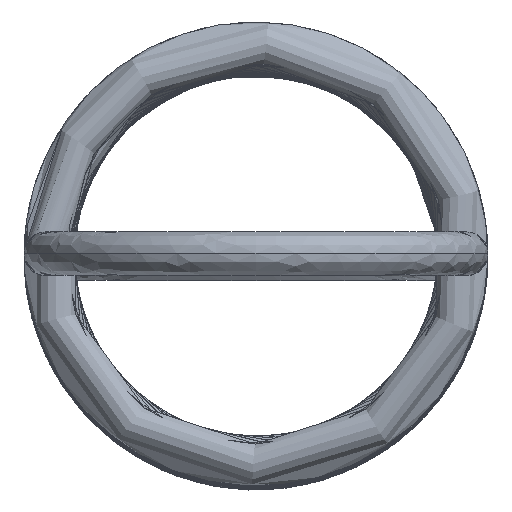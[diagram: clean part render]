
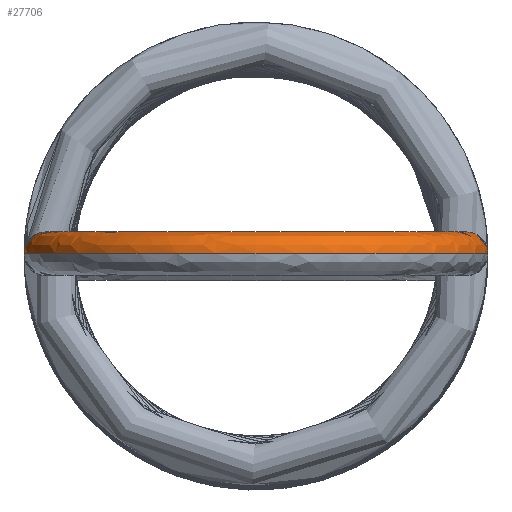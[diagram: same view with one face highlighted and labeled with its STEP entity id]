
A CAD part, top view. The second image highlights one B-rep face of the part: STEP entity #27706.
In plain terms, the highlighted free-form (B-spline) face has degree [3, 3] with [4, 4] control points.
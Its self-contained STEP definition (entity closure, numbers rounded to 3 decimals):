
#783 = ORIENTED_EDGE ( 'NONE', *, *, #19111, .T. ) ;
#2092 = DIRECTION ( 'NONE',  ( 0., 0., 1. ) ) ;
#2913 = CARTESIAN_POINT ( 'NONE',  ( 13., 3., 208.25 ) ) ;
#3102 = CARTESIAN_POINT ( 'NONE',  ( 13., 0., 208.25 ) ) ;
#6704 = CARTESIAN_POINT ( 'NONE',  ( 0., 0., 182.25 ) ) ;
#7298 = CARTESIAN_POINT ( 'NONE',  ( -13., 3., 208.25 ) ) ;
#7467 = CIRCLE ( 'NONE', #7900, 13. ) ;
#7900 = AXIS2_PLACEMENT_3D ( 'NONE', #6704, #15448, #10883 ) ;
#9924 = ORIENTED_EDGE ( 'NONE', *, *, #45008, .T. ) ;
#10094 = CARTESIAN_POINT ( 'NONE',  ( 14.5, 0., 182.25 ) ) ;
#10465 = DIRECTION ( 'NONE',  ( 1., 0., 0. ) ) ;
#10883 = DIRECTION ( 'NONE',  ( -1., 0., 0. ) ) ;
#11664 = CARTESIAN_POINT ( 'NONE',  ( 13., 3., 182.25 ) ) ;
#15448 = DIRECTION ( 'NONE',  ( 0., -1., 0. ) ) ;
#15854 = CARTESIAN_POINT ( 'NONE',  ( -16., 3., 214.25 ) ) ;
#16043 = CARTESIAN_POINT ( 'NONE',  ( -13., 0., 182.25 ) ) ;
#16233 = CARTESIAN_POINT ( 'NONE',  ( -16., 0., 182.25 ) ) ;
#19111 = EDGE_CURVE ( 'NONE', #30960, #19419, #7467, .T. ) ;
#19419 = VERTEX_POINT ( 'NONE', #31792 ) ;
#21915 = DIRECTION ( 'NONE',  ( -1., 0., 0. ) ) ;
#22576 = VERTEX_POINT ( 'NONE', #50642 ) ;
#23951 = ORIENTED_EDGE ( 'NONE', *, *, #53750, .F. ) ;
#24592 = CARTESIAN_POINT ( 'NONE',  ( 16., 3., 214.25 ) ) ;
#26083 = CARTESIAN_POINT ( 'NONE',  ( 13., 0., 182.25 ) ) ;
#27312 = EDGE_LOOP ( 'NONE', ( #9924, #783, #45882, #23951 ) ) ;
#27706 = ADVANCED_FACE ( 'NONE', ( #51000 ), #40217, .T. ) ;
#27786 = CIRCLE ( 'NONE', #48329, 16. ) ;
#29144 = CARTESIAN_POINT ( 'NONE',  ( -16., 3., 182.25 ) ) ;
#29413 = VERTEX_POINT ( 'NONE', #38853 ) ;
#29706 = EDGE_CURVE ( 'NONE', #22576, #19419, #47567, .T. ) ;
#30960 = VERTEX_POINT ( 'NONE', #26083 ) ;
#31792 = CARTESIAN_POINT ( 'NONE',  ( -13., 0., 182.25 ) ) ;
#33706 = CARTESIAN_POINT ( 'NONE',  ( -13., 0., 208.25 ) ) ;
#34093 = CARTESIAN_POINT ( 'NONE',  ( 16., 0., 214.25 ) ) ;
#37896 = CARTESIAN_POINT ( 'NONE',  ( 13., 0., 182.25 ) ) ;
#38853 = CARTESIAN_POINT ( 'NONE',  ( 16., 0., 182.25 ) ) ;
#38878 = CARTESIAN_POINT ( 'NONE',  ( 0., 0., 182.25 ) ) ;
#40217 =( BOUNDED_SURFACE ( )  B_SPLINE_SURFACE ( 3, 3, ( 
 ( #42082, #34093, #42461, #16233 ),
 ( #42655, #24592, #15854, #29144 ),
 ( #11664, #2913, #7298, #46269 ),
 ( #37896, #3102, #33706, #16043 ) ),
 .UNSPECIFIED., .F., .F., .F. ) 
 B_SPLINE_SURFACE_WITH_KNOTS ( ( 4, 4 ),
 ( 4, 4 ),
 ( 0., 1. ),
 ( 0., 1. ),
 .UNSPECIFIED. ) 
 GEOMETRIC_REPRESENTATION_ITEM ( )  RATIONAL_B_SPLINE_SURFACE ( (
 ( 1., 0.333, 0.333, 1.),
 ( 0.333, 0.111, 0.111, 0.333),
 ( 0.333, 0.111, 0.111, 0.333),
 ( 1., 0.333, 0.333, 1.) ) ) 
 REPRESENTATION_ITEM ( '' )  SURFACE ( )  );
#41432 = AXIS2_PLACEMENT_3D ( 'NONE', #10094, #2092, #10465 ) ;
#42082 = CARTESIAN_POINT ( 'NONE',  ( 16., 0., 182.25 ) ) ;
#42461 = CARTESIAN_POINT ( 'NONE',  ( -16., 0., 214.25 ) ) ;
#42655 = CARTESIAN_POINT ( 'NONE',  ( 16., 3., 182.25 ) ) ;
#45008 = EDGE_CURVE ( 'NONE', #29413, #30960, #46854, .T. ) ;
#45882 = ORIENTED_EDGE ( 'NONE', *, *, #29706, .F. ) ;
#46269 = CARTESIAN_POINT ( 'NONE',  ( -13., 3., 182.25 ) ) ;
#46854 = CIRCLE ( 'NONE', #41432, 1.5 ) ;
#47431 = DIRECTION ( 'NONE',  ( -1., 0., 0. ) ) ;
#47567 = CIRCLE ( 'NONE', #48668, 1.5 ) ;
#47947 = CARTESIAN_POINT ( 'NONE',  ( -14.5, 0., 182.25 ) ) ;
#48329 = AXIS2_PLACEMENT_3D ( 'NONE', #38878, #51983, #47431 ) ;
#48668 = AXIS2_PLACEMENT_3D ( 'NONE', #47947, #51595, #21915 ) ;
#50642 = CARTESIAN_POINT ( 'NONE',  ( -16., 0., 182.25 ) ) ;
#51000 = FACE_OUTER_BOUND ( 'NONE', #27312, .T. ) ;
#51595 = DIRECTION ( 'NONE',  ( 0., 0., -1. ) ) ;
#51983 = DIRECTION ( 'NONE',  ( 0., -1., 0. ) ) ;
#53750 = EDGE_CURVE ( 'NONE', #29413, #22576, #27786, .T. ) ;
